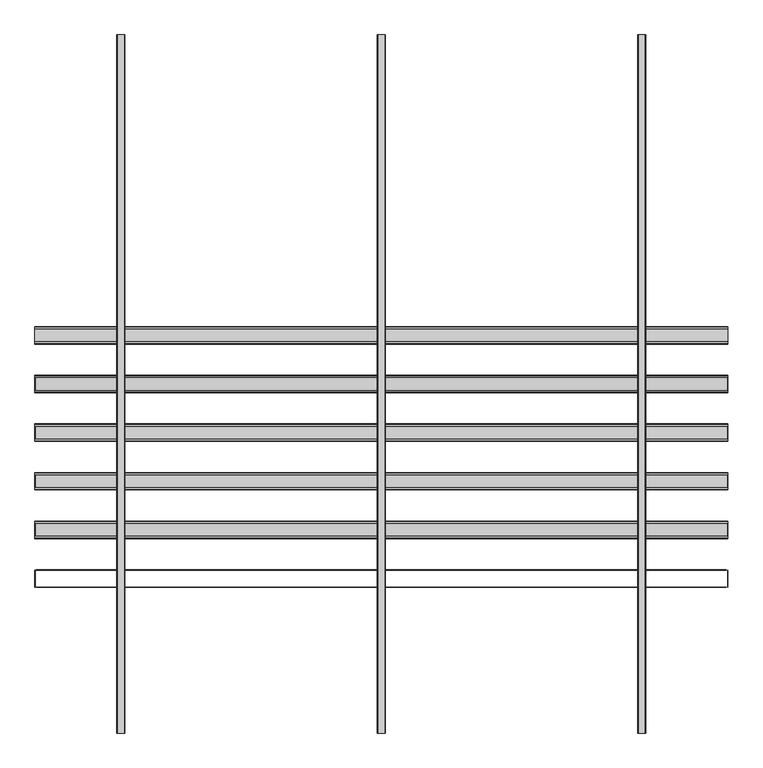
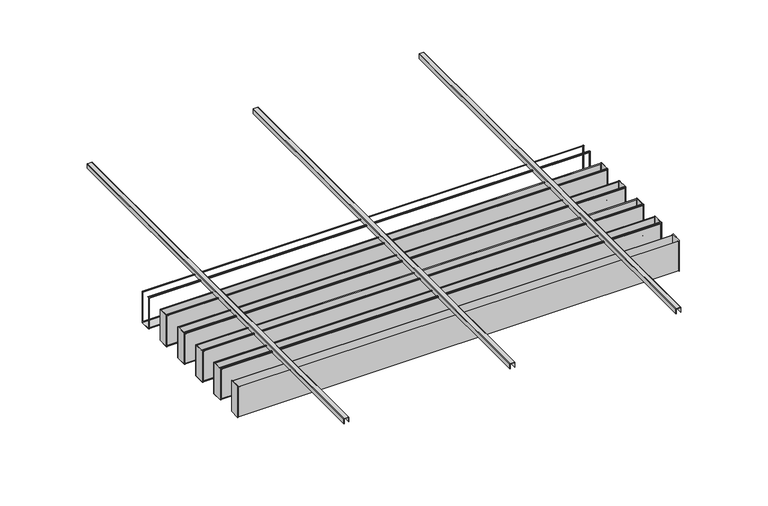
"""IFC4 building model written with IfcOpenShell, lengths in millimetres: proxy geometry, durlum_POLYLAM : durlum_POLYLAM 100."""

from ifc_helpers import new_model, si_unit, point, frame, frame_2d, origin, place, context, project, spatial, polyline, circle_curve, trimmed, segment, composite_curve, outline, extrude, source, transform, mapped, element, save
from ifc_brep_helpers import plane_surface, cylinder_surface, advanced_brep


def generic_models_490a04a7(model_context):
    return source(origin(), model_context, "Body", "SolidModel", [
        advanced_brep(
        [(1995.0, 328.0, 2016.9), (1995.0, 318.0, 2016.9), (1995.0, 318.0, 2015.9), (1995.0, 329.0, 2015.9), (1995.0, 329.0, 1717.9), (1995.0, 231.0, 1717.9), (1995.0, 231.0, 2015.8155735), (1995.0, 242.0, 2015.8155735), (1995.0, 242.0, 2016.9), (1995.0, 232.0, 2016.9), (1995.0, 230.0, 2014.9), (1995.0, 230.0, 1718.9), (1995.0, 232.0, 1716.9), (1995.0, 328.0, 1716.9), (1995.0, 330.0, 1718.9), (1995.0, 330.0, 2014.9), (-1995.0, 328.0, 2016.9), (-1995.0, 330.0, 2014.9), (-1995.0, 330.0, 1718.9), (-1995.0, 328.0, 1716.9), (-1995.0, 232.0, 1716.9), (-1995.0, 230.0, 1718.9), (-1995.0, 230.0, 2014.9), (-1995.0, 232.0, 2016.9), (-1995.0, 242.0, 2016.9), (-1995.0, 242.0, 2015.8155735), (-1995.0, 231.0, 2015.8155735), (-1995.0, 231.0, 1717.9), (-1995.0, 329.0, 1717.9), (-1995.0, 329.0, 2015.9), (-1995.0, 318.0, 2015.9), (-1995.0, 318.0, 2016.9), (-1986.5, 329.0, 2008.4), (1986.5, 329.0, 2008.4), (1986.5, 329.0, 1725.4), (-1986.5, 329.0, 1725.4), (1986.5, 231.0, 2008.4), (-1986.5, 231.0, 2008.4), (-1986.5, 231.0, 1725.4), (1986.5, 231.0, 1725.4), (-1986.5, 230.0, 2008.4), (1986.5, 230.0, 2008.4), (1986.5, 230.0, 1725.4), (-1986.5, 230.0, 1725.4), (1986.5, 330.0, 2008.4), (-1986.5, 330.0, 2008.4), (-1986.5, 330.0, 1725.4), (1986.5, 330.0, 1725.4)],
        [
            (0, 1),
            (1, 2),
            (2, 3),
            (3, 4),
            (4, 5),
            (5, 6),
            (6, 7),
            (7, 8),
            (8, 9),
            (9, 10, circle_curve(frame((1995.0, 232.0, 2014.9), z_axis=(1.0, 0.0, 0.0), x_axis=(0.0, 1.0, 0.0)), 2.0)),
            (10, 11),
            (11, 12, circle_curve(frame((1995.0, 232.0, 1718.9), z_axis=(1.0, 0.0, 0.0), x_axis=(0.0, 1.0, 0.0)), 2.0)),
            (12, 13),
            (13, 14, circle_curve(frame((1995.0, 328.0, 1718.9), z_axis=(1.0, 0.0, 0.0), x_axis=(0.0, 1.0, 0.0)), 2.0)),
            (14, 15),
            (15, 0, circle_curve(frame((1995.0, 328.0, 2014.9), z_axis=(1.0, 0.0, 0.0), x_axis=(0.0, 1.0, 0.0)), 2.0)),
            (16, 17, circle_curve(frame((-1995.0, 328.0, 2014.9), z_axis=(-1.0, 0.0, 0.0), x_axis=(0.0, 1.0, 0.0)), 2.0)),
            (17, 18),
            (18, 19, circle_curve(frame((-1995.0, 328.0, 1718.9), z_axis=(-1.0, 0.0, 0.0), x_axis=(0.0, 1.0, 0.0)), 2.0)),
            (19, 20),
            (20, 21, circle_curve(frame((-1995.0, 232.0, 1718.9), z_axis=(-1.0, 0.0, 0.0), x_axis=(0.0, 1.0, 0.0)), 2.0)),
            (21, 22),
            (22, 23, circle_curve(frame((-1995.0, 232.0, 2014.9), z_axis=(-1.0, 0.0, 0.0), x_axis=(0.0, 1.0, 0.0)), 2.0)),
            (23, 24),
            (24, 25),
            (25, 26),
            (26, 27),
            (27, 28),
            (28, 29),
            (29, 30),
            (30, 31),
            (31, 16),
            (0, 16),
            (31, 1),
            (30, 2),
            (29, 3),
            (28, 4),
            (32, 33),
            (33, 34),
            (34, 35),
            (35, 32),
            (27, 5),
            (26, 6),
            (36, 37),
            (37, 38),
            (38, 39),
            (39, 36),
            (25, 7),
            (24, 8),
            (23, 9),
            (10, 22),
            (21, 11),
            (40, 41),
            (41, 42),
            (42, 43),
            (43, 40),
            (12, 20),
            (19, 13),
            (14, 18),
            (17, 15),
            (44, 45),
            (45, 46),
            (46, 47),
            (47, 44),
            (44, 33),
            (32, 45),
            (36, 41),
            (40, 37),
            (35, 46),
            (43, 38),
            (34, 47),
            (42, 39),
        ],
        [
            plane_surface(frame((1995.0, 318.0, 2016.9), z_axis=(1.0, 0.0, 0.0), x_axis=(0.0, -1.0, 0.0))),
            plane_surface(frame((-1995.0, 318.0, 2016.9), z_axis=(-1.0, 0.0, 0.0), x_axis=(0.0, 1.0, 0.0))),
            plane_surface(frame((1995.0, 328.0, 2016.9), z_axis=(0.0, 0.0, 1.0), x_axis=(-1.0, 0.0, 0.0))),
            plane_surface(frame((1995.0, 318.0, 2016.9), z_axis=(0.0, -1.0, 0.0), x_axis=(-1.0, 0.0, 0.0))),
            plane_surface(frame((1995.0, 318.0, 2015.9), z_axis=(0.0, 0.0, -1.0), x_axis=(-1.0, 0.0, 0.0))),
            plane_surface(frame((1995.0, 329.0, 2015.9), z_axis=(0.0, -1.0, 0.0), x_axis=(-1.0, 0.0, 0.0))),
            plane_surface(frame((1995.0, 329.0, 1717.9), z_axis=(0.0, 0.0, 1.0), x_axis=(-1.0, 0.0, 0.0))),
            plane_surface(frame((1995.0, 231.0, 1717.9), z_axis=(0.0, 1.0, 0.0), x_axis=(-1.0, 0.0, 0.0))),
            plane_surface(frame((1995.0, 231.0, 2015.8155735), z_axis=(0.0, 0.0, -1.0), x_axis=(-1.0, 0.0, 0.0))),
            plane_surface(frame((1995.0, 242.0, 2015.8155735), z_axis=(0.0, 1.0, 0.0), x_axis=(-1.0, 0.0, 0.0))),
            plane_surface(frame((1995.0, 242.0, 2016.9), z_axis=(0.0, 0.0, 1.0), x_axis=(-1.0, 0.0, 0.0))),
            plane_surface(frame((1995.0, 230.0, 2014.9), z_axis=(0.0, -1.0, 0.0), x_axis=(-1.0, 0.0, 0.0))),
            plane_surface(frame((1995.0, 232.0, 1716.9), z_axis=(0.0, 0.0, -1.0), x_axis=(-1.0, 0.0, 0.0))),
            plane_surface(frame((1995.0, 330.0, 1718.9), z_axis=(0.0, 1.0, 0.0), x_axis=(-1.0, 0.0, 0.0))),
            cylinder_surface(frame((-1995.0, 232.0, 2014.9), z_axis=(1.0, 0.0, 0.0), x_axis=(0.0, 1.0, 0.0)), 2.0),
            cylinder_surface(frame((-1995.0, 232.0, 1718.9), z_axis=(1.0, 0.0, 0.0), x_axis=(0.0, 1.0, 0.0)), 2.0),
            cylinder_surface(frame((-1995.0, 328.0, 1718.9), z_axis=(1.0, 0.0, 0.0), x_axis=(0.0, 1.0, 0.0)), 2.0),
            cylinder_surface(frame((-1995.0, 328.0, 2014.9), z_axis=(1.0, 0.0, 0.0), x_axis=(0.0, 1.0, 0.0)), 2.0),
            plane_surface(frame((1986.5, 230.0, 2008.4), z_axis=(0.0, 0.0, -1.0), x_axis=(0.0, 1.0, 0.0))),
            plane_surface(frame((-1986.5, 230.0, 2008.4), z_axis=(1.0, 0.0, 0.0), x_axis=(0.0, 1.0, 0.0))),
            plane_surface(frame((-1986.5, 230.0, 1725.4), z_axis=(0.0, 0.0, 1.0), x_axis=(0.0, 1.0, 0.0))),
            plane_surface(frame((1986.5, 230.0, 1725.4), z_axis=(-1.0, 0.0, 0.0), x_axis=(0.0, 1.0, 0.0))),
        ],
        [
            (0, [[1, 2, 3, 4, 5, 6, 7, 8, 9, 10, 11, 12, 13, 14, 15, 16]]),
            (1, [[17, 18, 19, 20, 21, 22, 23, 24, 25, 26, 27, 28, 29, 30, 31, 32]]),
            (2, [[-1, 33, -32, 34]]),
            (3, [[-2, -34, -31, 35]]),
            (4, [[-3, -35, -30, 36]]),
            (5, [[-4, -36, -29, 37], [38, 39, 40, 41]]),
            (6, [[-5, -37, -28, 42]]),
            (7, [[-6, -42, -27, 43], [44, 45, 46, 47]]),
            (8, [[-7, -43, -26, 48]]),
            (9, [[-8, -48, -25, 49]]),
            (10, [[-9, -49, -24, 50]]),
            (11, [[-11, 51, -22, 52], [53, 54, 55, 56]]),
            (12, [[-13, 57, -20, 58]]),
            (13, [[-15, 59, -18, 60], [61, 62, 63, 64]]),
            (14, [[-10, -50, -23, -51]]),
            (15, [[-12, -52, -21, -57]]),
            (16, [[-14, -58, -19, -59]]),
            (17, [[-16, -60, -17, -33]]),
            (18, [[65, -38, 66, -61]]),
            (18, [[67, -53, 68, -44]]),
            (19, [[-66, -41, 69, -62]]),
            (19, [[-68, -56, 70, -45]]),
            (20, [[-69, -40, 71, -63]]),
            (20, [[-70, -55, 72, -46]]),
            (21, [[-65, -64, -71, -39]]),
            (21, [[-67, -47, -72, -54]]),
        ],
    ),
        extrude(outline(composite_curve([segment(polyline([(2005.0, 22.5), (2047.0, 22.5)]), True, "CONTINUOUS"), segment(trimmed(circle_curve(frame_2d((2047.0, 19.5)), 3.0), [point((2047.0, 22.5))], [point((2050.0, 19.5))], False, "CARTESIAN"), True, "CONTINUOUS"), segment(polyline([(2050.0, 19.5), (2050.0, -19.5)]), True, "CONTINUOUS"), segment(trimmed(circle_curve(frame_2d((2047.0, -19.5)), 3.0), [point((2050.0, -19.5))], [point((2047.0, -22.5))], False, "CARTESIAN"), True, "CONTINUOUS"), segment(polyline([(2047.0, -22.5), (2005.0, -22.5), (2005.0, -21.0), (2047.0, -21.0)]), True, "CONTINUOUS"), segment(trimmed(circle_curve(frame_2d((2047.0, -19.5)), 1.5), [point((2047.0, -21.0))], [point((2048.5, -19.5))], True, "CARTESIAN"), True, "CONTINUOUS"), segment(polyline([(2048.5, -19.5), (2048.5, 19.5)]), True, "CONTINUOUS"), segment(trimmed(circle_curve(frame_2d((2047.0, 19.5)), 1.5), [point((2048.5, 19.5))], [point((2047.0, 21.0))], True, "CARTESIAN"), True, "CONTINUOUS"), segment(polyline([(2047.0, 21.0), (2005.0, 21.0), (2005.0, 22.5)]), True, "CONTINUOUS")], self_intersect=False)), frame((0.0, -2010.0, 0.0), z_axis=(0.0, 1.0, 0.0), x_axis=(0.0, 0.0, 1.0)), (0.0, 0.0, 1.0), 4020.0),
        extrude(outline(composite_curve([segment(polyline([(2005.0, -1477.5), (2047.0, -1477.5)]), True, "CONTINUOUS"), segment(trimmed(circle_curve(frame_2d((2047.0, -1480.5)), 3.0), [point((2047.0, -1477.5))], [point((2050.0, -1480.5))], False, "CARTESIAN"), True, "CONTINUOUS"), segment(polyline([(2050.0, -1480.5), (2050.0, -1519.5)]), True, "CONTINUOUS"), segment(trimmed(circle_curve(frame_2d((2047.0, -1519.5)), 3.0), [point((2050.0, -1519.5))], [point((2047.0, -1522.5))], False, "CARTESIAN"), True, "CONTINUOUS"), segment(polyline([(2047.0, -1522.5), (2005.0, -1522.5), (2005.0, -1521.0), (2047.0, -1521.0)]), True, "CONTINUOUS"), segment(trimmed(circle_curve(frame_2d((2047.0, -1519.5)), 1.5), [point((2047.0, -1521.0))], [point((2048.5, -1519.5))], True, "CARTESIAN"), True, "CONTINUOUS"), segment(polyline([(2048.5, -1519.5), (2048.5, -1480.5)]), True, "CONTINUOUS"), segment(trimmed(circle_curve(frame_2d((2047.0, -1480.5)), 1.5), [point((2048.5, -1480.5))], [point((2047.0, -1479.0))], True, "CARTESIAN"), True, "CONTINUOUS"), segment(polyline([(2047.0, -1479.0), (2005.0, -1479.0), (2005.0, -1477.5)]), True, "CONTINUOUS")], self_intersect=False)), frame((0.0, -2010.0, 0.0), z_axis=(0.0, 1.0, 0.0), x_axis=(0.0, 0.0, 1.0)), (0.0, 0.0, 1.0), 4020.0),
        extrude(outline(composite_curve([segment(polyline([(2005.0, 1522.5), (2047.0, 1522.5)]), True, "CONTINUOUS"), segment(trimmed(circle_curve(frame_2d((2047.0, 1519.5)), 3.0), [point((2047.0, 1522.5))], [point((2050.0, 1519.5))], False, "CARTESIAN"), True, "CONTINUOUS"), segment(polyline([(2050.0, 1519.5), (2050.0, 1480.5)]), True, "CONTINUOUS"), segment(trimmed(circle_curve(frame_2d((2047.0, 1480.5)), 3.0), [point((2050.0, 1480.5))], [point((2047.0, 1477.5))], False, "CARTESIAN"), True, "CONTINUOUS"), segment(polyline([(2047.0, 1477.5), (2005.0, 1477.5), (2005.0, 1479.0), (2047.0, 1479.0)]), True, "CONTINUOUS"), segment(trimmed(circle_curve(frame_2d((2047.0, 1480.5)), 1.5), [point((2047.0, 1479.0))], [point((2048.5, 1480.5))], True, "CARTESIAN"), True, "CONTINUOUS"), segment(polyline([(2048.5, 1480.5), (2048.5, 1519.5)]), True, "CONTINUOUS"), segment(trimmed(circle_curve(frame_2d((2047.0, 1519.5)), 1.5), [point((2048.5, 1519.5))], [point((2047.0, 1521.0))], True, "CARTESIAN"), True, "CONTINUOUS"), segment(polyline([(2047.0, 1521.0), (2005.0, 1521.0), (2005.0, 1522.5)]), True, "CONTINUOUS")], self_intersect=False)), frame((0.0, -2010.0, 0.0), z_axis=(0.0, 1.0, 0.0), x_axis=(0.0, 0.0, 1.0)), (0.0, 0.0, 1.0), 4020.0),
        extrude(outline(polyline([(1986.5, 49.0), (-1986.5, 49.0), (-1986.5, 50.0), (1986.5, 50.0), (1986.5, 49.0)])), frame((0.0, 0.0, 1725.4), z_axis=(0.0, 0.0, 1.0), x_axis=(1.0, 0.0, 0.0)), (0.0, 0.0, 1.0), 283.0),
        extrude(outline(polyline([(1986.5, -50.0), (-1986.5, -50.0), (-1986.5, -49.0), (1986.5, -49.0), (1986.5, -50.0)])), frame((0.0, 0.0, 1725.4), z_axis=(0.0, 0.0, 1.0), x_axis=(1.0, 0.0, 0.0)), (0.0, 0.0, 1.0), 283.0),
        extrude(outline(polyline([(1993.0, 49.0), (1995.0, 49.0), (1995.0, -49.0), (1993.0, -49.0), (1993.0, 49.0)])), frame((0.0, 0.0, 1717.9), z_axis=(0.0, 0.0, 1.0), x_axis=(1.0, 0.0, 0.0)), (0.0, 0.0, 1.0), 298.0),
        extrude(outline(polyline([(-1995.0, 49.0), (-1993.0, 49.0), (-1993.0, -49.0), (-1995.0, -49.0), (-1995.0, 49.0)])), frame((0.0, 0.0, 1717.9), z_axis=(0.0, 0.0, 1.0), x_axis=(1.0, 0.0, 0.0)), (0.0, 0.0, 1.0), 298.0),
        advanced_brep(
        [(1995.0, 48.0, 2016.9), (1995.0, 38.0, 2016.9), (1995.0, 38.0, 2015.9), (1995.0, 49.0, 2015.9), (1995.0, 49.0, 1717.9), (1995.0, -49.0, 1717.9), (1995.0, -49.0, 2015.8155735), (1995.0, -38.0, 2015.8155735), (1995.0, -38.0, 2016.9), (1995.0, -48.0, 2016.9), (1995.0, -50.0, 2014.9), (1995.0, -50.0, 1718.9), (1995.0, -48.0, 1716.9), (1995.0, 48.0, 1716.9), (1995.0, 50.0, 1718.9), (1995.0, 50.0, 2014.9), (-1995.0, 48.0, 2016.9), (-1995.0, 50.0, 2014.9), (-1995.0, 50.0, 1718.9), (-1995.0, 48.0, 1716.9), (-1995.0, -48.0, 1716.9), (-1995.0, -50.0, 1718.9), (-1995.0, -50.0, 2014.9), (-1995.0, -48.0, 2016.9), (-1995.0, -38.0, 2016.9), (-1995.0, -38.0, 2015.8155735), (-1995.0, -49.0, 2015.8155735), (-1995.0, -49.0, 1717.9), (-1995.0, 49.0, 1717.9), (-1995.0, 49.0, 2015.9), (-1995.0, 38.0, 2015.9), (-1995.0, 38.0, 2016.9), (-1986.5, 49.0, 2008.4), (1986.5, 49.0, 2008.4), (1986.5, 49.0, 1725.4), (-1986.5, 49.0, 1725.4), (1986.5, -49.0, 2008.4), (-1986.5, -49.0, 2008.4), (-1986.5, -49.0, 1725.4), (1986.5, -49.0, 1725.4), (-1986.5, -50.0, 2008.4), (1986.5, -50.0, 2008.4), (1986.5, -50.0, 1725.4), (-1986.5, -50.0, 1725.4), (1986.5, 50.0, 2008.4), (-1986.5, 50.0, 2008.4), (-1986.5, 50.0, 1725.4), (1986.5, 50.0, 1725.4)],
        [
            (0, 1),
            (1, 2),
            (2, 3),
            (3, 4),
            (4, 5),
            (5, 6),
            (6, 7),
            (7, 8),
            (8, 9),
            (9, 10, circle_curve(frame((1995.0, -48.0, 2014.9), z_axis=(1.0, 0.0, 0.0), x_axis=(0.0, 1.0, 0.0)), 2.0)),
            (10, 11),
            (11, 12, circle_curve(frame((1995.0, -48.0, 1718.9), z_axis=(1.0, 0.0, 0.0), x_axis=(0.0, 1.0, 0.0)), 2.0)),
            (12, 13),
            (13, 14, circle_curve(frame((1995.0, 48.0, 1718.9), z_axis=(1.0, 0.0, 0.0), x_axis=(0.0, 1.0, 0.0)), 2.0)),
            (14, 15),
            (15, 0, circle_curve(frame((1995.0, 48.0, 2014.9), z_axis=(1.0, 0.0, 0.0), x_axis=(0.0, 1.0, 0.0)), 2.0)),
            (16, 17, circle_curve(frame((-1995.0, 48.0, 2014.9), z_axis=(-1.0, 0.0, 0.0), x_axis=(0.0, 1.0, 0.0)), 2.0)),
            (17, 18),
            (18, 19, circle_curve(frame((-1995.0, 48.0, 1718.9), z_axis=(-1.0, 0.0, 0.0), x_axis=(0.0, 1.0, 0.0)), 2.0)),
            (19, 20),
            (20, 21, circle_curve(frame((-1995.0, -48.0, 1718.9), z_axis=(-1.0, 0.0, 0.0), x_axis=(0.0, 1.0, 0.0)), 2.0)),
            (21, 22),
            (22, 23, circle_curve(frame((-1995.0, -48.0, 2014.9), z_axis=(-1.0, 0.0, 0.0), x_axis=(0.0, 1.0, 0.0)), 2.0)),
            (23, 24),
            (24, 25),
            (25, 26),
            (26, 27),
            (27, 28),
            (28, 29),
            (29, 30),
            (30, 31),
            (31, 16),
            (0, 16),
            (31, 1),
            (30, 2),
            (29, 3),
            (28, 4),
            (32, 33),
            (33, 34),
            (34, 35),
            (35, 32),
            (27, 5),
            (26, 6),
            (36, 37),
            (37, 38),
            (38, 39),
            (39, 36),
            (25, 7),
            (24, 8),
            (23, 9),
            (10, 22),
            (21, 11),
            (40, 41),
            (41, 42),
            (42, 43),
            (43, 40),
            (12, 20),
            (19, 13),
            (14, 18),
            (17, 15),
            (44, 45),
            (45, 46),
            (46, 47),
            (47, 44),
            (44, 33),
            (32, 45),
            (36, 41),
            (40, 37),
            (35, 46),
            (43, 38),
            (34, 47),
            (42, 39),
        ],
        [
            plane_surface(frame((1995.0, 38.0, 2016.9), z_axis=(1.0, 0.0, 0.0), x_axis=(0.0, -1.0, 0.0))),
            plane_surface(frame((-1995.0, 38.0, 2016.9), z_axis=(-1.0, 0.0, 0.0), x_axis=(0.0, 1.0, 0.0))),
            plane_surface(frame((1995.0, 48.0, 2016.9), z_axis=(0.0, 0.0, 1.0), x_axis=(-1.0, 0.0, 0.0))),
            plane_surface(frame((1995.0, 38.0, 2016.9), z_axis=(0.0, -1.0, 0.0), x_axis=(-1.0, 0.0, 0.0))),
            plane_surface(frame((1995.0, 38.0, 2015.9), z_axis=(0.0, 0.0, -1.0), x_axis=(-1.0, 0.0, 0.0))),
            plane_surface(frame((1995.0, 49.0, 2015.9), z_axis=(0.0, -1.0, 0.0), x_axis=(-1.0, 0.0, 0.0))),
            plane_surface(frame((1995.0, 49.0, 1717.9), z_axis=(0.0, 0.0, 1.0), x_axis=(-1.0, 0.0, 0.0))),
            plane_surface(frame((1995.0, -49.0, 1717.9), z_axis=(0.0, 1.0, 0.0), x_axis=(-1.0, 0.0, 0.0))),
            plane_surface(frame((1995.0, -49.0, 2015.8155735), z_axis=(0.0, 0.0, -1.0), x_axis=(-1.0, 0.0, 0.0))),
            plane_surface(frame((1995.0, -38.0, 2015.8155735), z_axis=(0.0, 1.0, 0.0), x_axis=(-1.0, 0.0, 0.0))),
            plane_surface(frame((1995.0, -38.0, 2016.9), z_axis=(0.0, 0.0, 1.0), x_axis=(-1.0, 0.0, 0.0))),
            plane_surface(frame((1995.0, -50.0, 2014.9), z_axis=(0.0, -1.0, 0.0), x_axis=(-1.0, 0.0, 0.0))),
            plane_surface(frame((1995.0, -48.0, 1716.9), z_axis=(0.0, 0.0, -1.0), x_axis=(-1.0, 0.0, 0.0))),
            plane_surface(frame((1995.0, 50.0, 1718.9), z_axis=(0.0, 1.0, 0.0), x_axis=(-1.0, 0.0, 0.0))),
            cylinder_surface(frame((-1995.0, -48.0, 2014.9), z_axis=(1.0, 0.0, 0.0), x_axis=(0.0, 1.0, 0.0)), 2.0),
            cylinder_surface(frame((-1995.0, -48.0, 1718.9), z_axis=(1.0, 0.0, 0.0), x_axis=(0.0, 1.0, 0.0)), 2.0),
            cylinder_surface(frame((-1995.0, 48.0, 1718.9), z_axis=(1.0, 0.0, 0.0), x_axis=(0.0, 1.0, 0.0)), 2.0),
            cylinder_surface(frame((-1995.0, 48.0, 2014.9), z_axis=(1.0, 0.0, 0.0), x_axis=(0.0, 1.0, 0.0)), 2.0),
            plane_surface(frame((1986.5, -50.0, 2008.4), z_axis=(0.0, 0.0, -1.0), x_axis=(0.0, 1.0, 0.0))),
            plane_surface(frame((-1986.5, -50.0, 2008.4), z_axis=(1.0, 0.0, 0.0), x_axis=(0.0, 1.0, 0.0))),
            plane_surface(frame((-1986.5, -50.0, 1725.4), z_axis=(0.0, 0.0, 1.0), x_axis=(0.0, 1.0, 0.0))),
            plane_surface(frame((1986.5, -50.0, 1725.4), z_axis=(-1.0, 0.0, 0.0), x_axis=(0.0, 1.0, 0.0))),
        ],
        [
            (0, [[1, 2, 3, 4, 5, 6, 7, 8, 9, 10, 11, 12, 13, 14, 15, 16]]),
            (1, [[17, 18, 19, 20, 21, 22, 23, 24, 25, 26, 27, 28, 29, 30, 31, 32]]),
            (2, [[-1, 33, -32, 34]]),
            (3, [[-2, -34, -31, 35]]),
            (4, [[-3, -35, -30, 36]]),
            (5, [[-4, -36, -29, 37], [38, 39, 40, 41]]),
            (6, [[-5, -37, -28, 42]]),
            (7, [[-6, -42, -27, 43], [44, 45, 46, 47]]),
            (8, [[-7, -43, -26, 48]]),
            (9, [[-8, -48, -25, 49]]),
            (10, [[-9, -49, -24, 50]]),
            (11, [[-11, 51, -22, 52], [53, 54, 55, 56]]),
            (12, [[-13, 57, -20, 58]]),
            (13, [[-15, 59, -18, 60], [61, 62, 63, 64]]),
            (14, [[-10, -50, -23, -51]]),
            (15, [[-12, -52, -21, -57]]),
            (16, [[-14, -58, -19, -59]]),
            (17, [[-16, -60, -17, -33]]),
            (18, [[65, -38, 66, -61]]),
            (18, [[67, -53, 68, -44]]),
            (19, [[-66, -41, 69, -62]]),
            (19, [[-68, -56, 70, -45]]),
            (20, [[-69, -40, 71, -63]]),
            (20, [[-70, -55, 72, -46]]),
            (21, [[-65, -64, -71, -39]]),
            (21, [[-67, -47, -72, -54]]),
        ],
    ),
        extrude(outline(polyline([(1986.5, -231.0), (-1986.5, -231.0), (-1986.5, -230.0), (1986.5, -230.0), (1986.5, -231.0)])), frame((0.0, 0.0, 1725.4), z_axis=(0.0, 0.0, 1.0), x_axis=(1.0, 0.0, 0.0)), (0.0, 0.0, 1.0), 283.0),
        extrude(outline(polyline([(1986.5, -330.0), (-1986.5, -330.0), (-1986.5, -329.0), (1986.5, -329.0), (1986.5, -330.0)])), frame((0.0, 0.0, 1725.4), z_axis=(0.0, 0.0, 1.0), x_axis=(1.0, 0.0, 0.0)), (0.0, 0.0, 1.0), 283.0),
        extrude(outline(polyline([(1993.0, -231.0), (1995.0, -231.0), (1995.0, -329.0), (1993.0, -329.0), (1993.0, -231.0)])), frame((0.0, 0.0, 1717.9), z_axis=(0.0, 0.0, 1.0), x_axis=(1.0, 0.0, 0.0)), (0.0, 0.0, 1.0), 298.0),
        extrude(outline(polyline([(-1995.0, -231.0), (-1993.0, -231.0), (-1993.0, -329.0), (-1995.0, -329.0), (-1995.0, -231.0)])), frame((0.0, 0.0, 1717.9), z_axis=(0.0, 0.0, 1.0), x_axis=(1.0, 0.0, 0.0)), (0.0, 0.0, 1.0), 298.0),
        advanced_brep(
        [(1995.0, -232.0, 2016.9), (1995.0, -242.0, 2016.9), (1995.0, -242.0, 2015.9), (1995.0, -231.0, 2015.9), (1995.0, -231.0, 1717.9), (1995.0, -329.0, 1717.9), (1995.0, -329.0, 2015.8155735), (1995.0, -318.0, 2015.8155735), (1995.0, -318.0, 2016.9), (1995.0, -328.0, 2016.9), (1995.0, -330.0, 2014.9), (1995.0, -330.0, 1718.9), (1995.0, -328.0, 1716.9), (1995.0, -232.0, 1716.9), (1995.0, -230.0, 1718.9), (1995.0, -230.0, 2014.9), (-1995.0, -232.0, 2016.9), (-1995.0, -230.0, 2014.9), (-1995.0, -230.0, 1718.9), (-1995.0, -232.0, 1716.9), (-1995.0, -328.0, 1716.9), (-1995.0, -330.0, 1718.9), (-1995.0, -330.0, 2014.9), (-1995.0, -328.0, 2016.9), (-1995.0, -318.0, 2016.9), (-1995.0, -318.0, 2015.8155735), (-1995.0, -329.0, 2015.8155735), (-1995.0, -329.0, 1717.9), (-1995.0, -231.0, 1717.9), (-1995.0, -231.0, 2015.9), (-1995.0, -242.0, 2015.9), (-1995.0, -242.0, 2016.9), (-1986.5, -231.0, 2008.4), (1986.5, -231.0, 2008.4), (1986.5, -231.0, 1725.4), (-1986.5, -231.0, 1725.4), (1986.5, -329.0, 2008.4), (-1986.5, -329.0, 2008.4), (-1986.5, -329.0, 1725.4), (1986.5, -329.0, 1725.4), (-1986.5, -330.0, 2008.4), (1986.5, -330.0, 2008.4), (1986.5, -330.0, 1725.4), (-1986.5, -330.0, 1725.4), (1986.5, -230.0, 2008.4), (-1986.5, -230.0, 2008.4), (-1986.5, -230.0, 1725.4), (1986.5, -230.0, 1725.4)],
        [
            (0, 1),
            (1, 2),
            (2, 3),
            (3, 4),
            (4, 5),
            (5, 6),
            (6, 7),
            (7, 8),
            (8, 9),
            (9, 10, circle_curve(frame((1995.0, -328.0, 2014.9), z_axis=(1.0, 0.0, 0.0), x_axis=(0.0, 1.0, 0.0)), 2.0)),
            (10, 11),
            (11, 12, circle_curve(frame((1995.0, -328.0, 1718.9), z_axis=(1.0, 0.0, 0.0), x_axis=(0.0, 1.0, 0.0)), 2.0)),
            (12, 13),
            (13, 14, circle_curve(frame((1995.0, -232.0, 1718.9), z_axis=(1.0, 0.0, 0.0), x_axis=(0.0, 1.0, 0.0)), 2.0)),
            (14, 15),
            (15, 0, circle_curve(frame((1995.0, -232.0, 2014.9), z_axis=(1.0, 0.0, 0.0), x_axis=(0.0, 1.0, 0.0)), 2.0)),
            (16, 17, circle_curve(frame((-1995.0, -232.0, 2014.9), z_axis=(-1.0, 0.0, 0.0), x_axis=(0.0, 1.0, 0.0)), 2.0)),
            (17, 18),
            (18, 19, circle_curve(frame((-1995.0, -232.0, 1718.9), z_axis=(-1.0, 0.0, 0.0), x_axis=(0.0, 1.0, 0.0)), 2.0)),
            (19, 20),
            (20, 21, circle_curve(frame((-1995.0, -328.0, 1718.9), z_axis=(-1.0, 0.0, 0.0), x_axis=(0.0, 1.0, 0.0)), 2.0)),
            (21, 22),
            (22, 23, circle_curve(frame((-1995.0, -328.0, 2014.9), z_axis=(-1.0, 0.0, 0.0), x_axis=(0.0, 1.0, 0.0)), 2.0)),
            (23, 24),
            (24, 25),
            (25, 26),
            (26, 27),
            (27, 28),
            (28, 29),
            (29, 30),
            (30, 31),
            (31, 16),
            (0, 16),
            (31, 1),
            (30, 2),
            (29, 3),
            (28, 4),
            (32, 33),
            (33, 34),
            (34, 35),
            (35, 32),
            (27, 5),
            (26, 6),
            (36, 37),
            (37, 38),
            (38, 39),
            (39, 36),
            (25, 7),
            (24, 8),
            (23, 9),
            (10, 22),
            (21, 11),
            (40, 41),
            (41, 42),
            (42, 43),
            (43, 40),
            (12, 20),
            (19, 13),
            (14, 18),
            (17, 15),
            (44, 45),
            (45, 46),
            (46, 47),
            (47, 44),
            (44, 33),
            (32, 45),
            (36, 41),
            (40, 37),
            (35, 46),
            (43, 38),
            (34, 47),
            (42, 39),
        ],
        [
            plane_surface(frame((1995.0, -242.0, 2016.9), z_axis=(1.0, 0.0, 0.0), x_axis=(0.0, -1.0, 0.0))),
            plane_surface(frame((-1995.0, -242.0, 2016.9), z_axis=(-1.0, 0.0, 0.0), x_axis=(0.0, 1.0, 0.0))),
            plane_surface(frame((1995.0, -232.0, 2016.9), z_axis=(0.0, 0.0, 1.0), x_axis=(-1.0, 0.0, 0.0))),
            plane_surface(frame((1995.0, -242.0, 2016.9), z_axis=(0.0, -1.0, 0.0), x_axis=(-1.0, 0.0, 0.0))),
            plane_surface(frame((1995.0, -242.0, 2015.9), z_axis=(0.0, 0.0, -1.0), x_axis=(-1.0, 0.0, 0.0))),
            plane_surface(frame((1995.0, -231.0, 2015.9), z_axis=(0.0, -1.0, 0.0), x_axis=(-1.0, 0.0, 0.0))),
            plane_surface(frame((1995.0, -231.0, 1717.9), z_axis=(0.0, 0.0, 1.0), x_axis=(-1.0, 0.0, 0.0))),
            plane_surface(frame((1995.0, -329.0, 1717.9), z_axis=(0.0, 1.0, 0.0), x_axis=(-1.0, 0.0, 0.0))),
            plane_surface(frame((1995.0, -329.0, 2015.8155735), z_axis=(0.0, 0.0, -1.0), x_axis=(-1.0, 0.0, 0.0))),
            plane_surface(frame((1995.0, -318.0, 2015.8155735), z_axis=(0.0, 1.0, 0.0), x_axis=(-1.0, 0.0, 0.0))),
            plane_surface(frame((1995.0, -318.0, 2016.9), z_axis=(0.0, 0.0, 1.0), x_axis=(-1.0, 0.0, 0.0))),
            plane_surface(frame((1995.0, -330.0, 2014.9), z_axis=(0.0, -1.0, 0.0), x_axis=(-1.0, 0.0, 0.0))),
            plane_surface(frame((1995.0, -328.0, 1716.9), z_axis=(0.0, 0.0, -1.0), x_axis=(-1.0, 0.0, 0.0))),
            plane_surface(frame((1995.0, -230.0, 1718.9), z_axis=(0.0, 1.0, 0.0), x_axis=(-1.0, 0.0, 0.0))),
            cylinder_surface(frame((-1995.0, -328.0, 2014.9), z_axis=(1.0, 0.0, 0.0), x_axis=(0.0, 1.0, 0.0)), 2.0),
            cylinder_surface(frame((-1995.0, -328.0, 1718.9), z_axis=(1.0, 0.0, 0.0), x_axis=(0.0, 1.0, 0.0)), 2.0),
            cylinder_surface(frame((-1995.0, -232.0, 1718.9), z_axis=(1.0, 0.0, 0.0), x_axis=(0.0, 1.0, 0.0)), 2.0),
            cylinder_surface(frame((-1995.0, -232.0, 2014.9), z_axis=(1.0, 0.0, 0.0), x_axis=(0.0, 1.0, 0.0)), 2.0),
            plane_surface(frame((1986.5, -330.0, 2008.4), z_axis=(0.0, 0.0, -1.0), x_axis=(0.0, 1.0, 0.0))),
            plane_surface(frame((-1986.5, -330.0, 2008.4), z_axis=(1.0, 0.0, 0.0), x_axis=(0.0, 1.0, 0.0))),
            plane_surface(frame((-1986.5, -330.0, 1725.4), z_axis=(0.0, 0.0, 1.0), x_axis=(0.0, 1.0, 0.0))),
            plane_surface(frame((1986.5, -330.0, 1725.4), z_axis=(-1.0, 0.0, 0.0), x_axis=(0.0, 1.0, 0.0))),
        ],
        [
            (0, [[1, 2, 3, 4, 5, 6, 7, 8, 9, 10, 11, 12, 13, 14, 15, 16]]),
            (1, [[17, 18, 19, 20, 21, 22, 23, 24, 25, 26, 27, 28, 29, 30, 31, 32]]),
            (2, [[-1, 33, -32, 34]]),
            (3, [[-2, -34, -31, 35]]),
            (4, [[-3, -35, -30, 36]]),
            (5, [[-4, -36, -29, 37], [38, 39, 40, 41]]),
            (6, [[-5, -37, -28, 42]]),
            (7, [[-6, -42, -27, 43], [44, 45, 46, 47]]),
            (8, [[-7, -43, -26, 48]]),
            (9, [[-8, -48, -25, 49]]),
            (10, [[-9, -49, -24, 50]]),
            (11, [[-11, 51, -22, 52], [53, 54, 55, 56]]),
            (12, [[-13, 57, -20, 58]]),
            (13, [[-15, 59, -18, 60], [61, 62, 63, 64]]),
            (14, [[-10, -50, -23, -51]]),
            (15, [[-12, -52, -21, -57]]),
            (16, [[-14, -58, -19, -59]]),
            (17, [[-16, -60, -17, -33]]),
            (18, [[65, -38, 66, -61]]),
            (18, [[67, -53, 68, -44]]),
            (19, [[-66, -41, 69, -62]]),
            (19, [[-68, -56, 70, -45]]),
            (20, [[-69, -40, 71, -63]]),
            (20, [[-70, -55, 72, -46]]),
            (21, [[-65, -64, -71, -39]]),
            (21, [[-67, -47, -72, -54]]),
        ],
    ),
        extrude(outline(polyline([(1986.5, -511.0), (-1986.5, -511.0), (-1986.5, -510.0), (1986.5, -510.0), (1986.5, -511.0)])), frame((0.0, 0.0, 1725.4), z_axis=(0.0, 0.0, 1.0), x_axis=(1.0, 0.0, 0.0)), (0.0, 0.0, 1.0), 283.0),
        extrude(outline(polyline([(1986.5, -610.0), (-1986.5, -610.0), (-1986.5, -609.0), (1986.5, -609.0), (1986.5, -610.0)])), frame((0.0, 0.0, 1725.4), z_axis=(0.0, 0.0, 1.0), x_axis=(1.0, 0.0, 0.0)), (0.0, 0.0, 1.0), 283.0),
        extrude(outline(polyline([(1993.0, -511.0), (1995.0, -511.0), (1995.0, -609.0), (1993.0, -609.0), (1993.0, -511.0)])), frame((0.0, 0.0, 1717.9), z_axis=(0.0, 0.0, 1.0), x_axis=(1.0, 0.0, 0.0)), (0.0, 0.0, 1.0), 298.0),
        extrude(outline(polyline([(-1995.0, -511.0), (-1993.0, -511.0), (-1993.0, -609.0), (-1995.0, -609.0), (-1995.0, -511.0)])), frame((0.0, 0.0, 1717.9), z_axis=(0.0, 0.0, 1.0), x_axis=(1.0, 0.0, 0.0)), (0.0, 0.0, 1.0), 298.0),
        advanced_brep(
        [(1995.0, -512.0, 2016.9), (1995.0, -522.0, 2016.9), (1995.0, -522.0, 2015.9), (1995.0, -511.0, 2015.9), (1995.0, -511.0, 1717.9), (1995.0, -609.0, 1717.9), (1995.0, -609.0, 2015.8155735), (1995.0, -598.0, 2015.8155735), (1995.0, -598.0, 2016.9), (1995.0, -608.0, 2016.9), (1995.0, -610.0, 2014.9), (1995.0, -610.0, 1718.9), (1995.0, -608.0, 1716.9), (1995.0, -512.0, 1716.9), (1995.0, -510.0, 1718.9), (1995.0, -510.0, 2014.9), (-1995.0, -512.0, 2016.9), (-1995.0, -510.0, 2014.9), (-1995.0, -510.0, 1718.9), (-1995.0, -512.0, 1716.9), (-1995.0, -608.0, 1716.9), (-1995.0, -610.0, 1718.9), (-1995.0, -610.0, 2014.9), (-1995.0, -608.0, 2016.9), (-1995.0, -598.0, 2016.9), (-1995.0, -598.0, 2015.8155735), (-1995.0, -609.0, 2015.8155735), (-1995.0, -609.0, 1717.9), (-1995.0, -511.0, 1717.9), (-1995.0, -511.0, 2015.9), (-1995.0, -522.0, 2015.9), (-1995.0, -522.0, 2016.9), (-1986.5, -511.0, 2008.4), (1986.5, -511.0, 2008.4), (1986.5, -511.0, 1725.4), (-1986.5, -511.0, 1725.4), (1986.5, -609.0, 2008.4), (-1986.5, -609.0, 2008.4), (-1986.5, -609.0, 1725.4), (1986.5, -609.0, 1725.4), (-1986.5, -610.0, 2008.4), (1986.5, -610.0, 2008.4), (1986.5, -610.0, 1725.4), (-1986.5, -610.0, 1725.4), (1986.5, -510.0, 2008.4), (-1986.5, -510.0, 2008.4), (-1986.5, -510.0, 1725.4), (1986.5, -510.0, 1725.4)],
        [
            (0, 1),
            (1, 2),
            (2, 3),
            (3, 4),
            (4, 5),
            (5, 6),
            (6, 7),
            (7, 8),
            (8, 9),
            (9, 10, circle_curve(frame((1995.0, -608.0, 2014.9), z_axis=(1.0, 0.0, 0.0), x_axis=(0.0, 1.0, 0.0)), 2.0)),
            (10, 11),
            (11, 12, circle_curve(frame((1995.0, -608.0, 1718.9), z_axis=(1.0, 0.0, 0.0), x_axis=(0.0, 1.0, 0.0)), 2.0)),
            (12, 13),
            (13, 14, circle_curve(frame((1995.0, -512.0, 1718.9), z_axis=(1.0, 0.0, 0.0), x_axis=(0.0, 1.0, 0.0)), 2.0)),
            (14, 15),
            (15, 0, circle_curve(frame((1995.0, -512.0, 2014.9), z_axis=(1.0, 0.0, 0.0), x_axis=(0.0, 1.0, 0.0)), 2.0)),
            (16, 17, circle_curve(frame((-1995.0, -512.0, 2014.9), z_axis=(-1.0, 0.0, 0.0), x_axis=(0.0, 1.0, 0.0)), 2.0)),
            (17, 18),
            (18, 19, circle_curve(frame((-1995.0, -512.0, 1718.9), z_axis=(-1.0, 0.0, 0.0), x_axis=(0.0, 1.0, 0.0)), 2.0)),
            (19, 20),
            (20, 21, circle_curve(frame((-1995.0, -608.0, 1718.9), z_axis=(-1.0, 0.0, 0.0), x_axis=(0.0, 1.0, 0.0)), 2.0)),
            (21, 22),
            (22, 23, circle_curve(frame((-1995.0, -608.0, 2014.9), z_axis=(-1.0, 0.0, 0.0), x_axis=(0.0, 1.0, 0.0)), 2.0)),
            (23, 24),
            (24, 25),
            (25, 26),
            (26, 27),
            (27, 28),
            (28, 29),
            (29, 30),
            (30, 31),
            (31, 16),
            (0, 16),
            (31, 1),
            (30, 2),
            (29, 3),
            (28, 4),
            (32, 33),
            (33, 34),
            (34, 35),
            (35, 32),
            (27, 5),
            (26, 6),
            (36, 37),
            (37, 38),
            (38, 39),
            (39, 36),
            (25, 7),
            (24, 8),
            (23, 9),
            (10, 22),
            (21, 11),
            (40, 41),
            (41, 42),
            (42, 43),
            (43, 40),
            (12, 20),
            (19, 13),
            (14, 18),
            (17, 15),
            (44, 45),
            (45, 46),
            (46, 47),
            (47, 44),
            (44, 33),
            (32, 45),
            (36, 41),
            (40, 37),
            (35, 46),
            (43, 38),
            (34, 47),
            (42, 39),
        ],
        [
            plane_surface(frame((1995.0, -522.0, 2016.9), z_axis=(1.0, 0.0, 0.0), x_axis=(0.0, -1.0, 0.0))),
            plane_surface(frame((-1995.0, -522.0, 2016.9), z_axis=(-1.0, 0.0, 0.0), x_axis=(0.0, 1.0, 0.0))),
            plane_surface(frame((1995.0, -512.0, 2016.9), z_axis=(0.0, 0.0, 1.0), x_axis=(-1.0, 0.0, 0.0))),
            plane_surface(frame((1995.0, -522.0, 2016.9), z_axis=(0.0, -1.0, 0.0), x_axis=(-1.0, 0.0, 0.0))),
            plane_surface(frame((1995.0, -522.0, 2015.9), z_axis=(0.0, 0.0, -1.0), x_axis=(-1.0, 0.0, 0.0))),
            plane_surface(frame((1995.0, -511.0, 2015.9), z_axis=(0.0, -1.0, 0.0), x_axis=(-1.0, 0.0, 0.0))),
            plane_surface(frame((1995.0, -511.0, 1717.9), z_axis=(0.0, 0.0, 1.0), x_axis=(-1.0, 0.0, 0.0))),
            plane_surface(frame((1995.0, -609.0, 1717.9), z_axis=(0.0, 1.0, 0.0), x_axis=(-1.0, 0.0, 0.0))),
            plane_surface(frame((1995.0, -609.0, 2015.8155735), z_axis=(0.0, 0.0, -1.0), x_axis=(-1.0, 0.0, 0.0))),
            plane_surface(frame((1995.0, -598.0, 2015.8155735), z_axis=(0.0, 1.0, 0.0), x_axis=(-1.0, 0.0, 0.0))),
            plane_surface(frame((1995.0, -598.0, 2016.9), z_axis=(0.0, 0.0, 1.0), x_axis=(-1.0, 0.0, 0.0))),
            plane_surface(frame((1995.0, -610.0, 2014.9), z_axis=(0.0, -1.0, 0.0), x_axis=(-1.0, 0.0, 0.0))),
            plane_surface(frame((1995.0, -608.0, 1716.9), z_axis=(0.0, 0.0, -1.0), x_axis=(-1.0, 0.0, 0.0))),
            plane_surface(frame((1995.0, -510.0, 1718.9), z_axis=(0.0, 1.0, 0.0), x_axis=(-1.0, 0.0, 0.0))),
            cylinder_surface(frame((-1995.0, -608.0, 2014.9), z_axis=(1.0, 0.0, 0.0), x_axis=(0.0, 1.0, 0.0)), 2.0),
            cylinder_surface(frame((-1995.0, -608.0, 1718.9), z_axis=(1.0, 0.0, 0.0), x_axis=(0.0, 1.0, 0.0)), 2.0),
            cylinder_surface(frame((-1995.0, -512.0, 1718.9), z_axis=(1.0, 0.0, 0.0), x_axis=(0.0, 1.0, 0.0)), 2.0),
            cylinder_surface(frame((-1995.0, -512.0, 2014.9), z_axis=(1.0, 0.0, 0.0), x_axis=(0.0, 1.0, 0.0)), 2.0),
            plane_surface(frame((1986.5, -610.0, 2008.4), z_axis=(0.0, 0.0, -1.0), x_axis=(0.0, 1.0, 0.0))),
            plane_surface(frame((-1986.5, -610.0, 2008.4), z_axis=(1.0, 0.0, 0.0), x_axis=(0.0, 1.0, 0.0))),
            plane_surface(frame((-1986.5, -610.0, 1725.4), z_axis=(0.0, 0.0, 1.0), x_axis=(0.0, 1.0, 0.0))),
            plane_surface(frame((1986.5, -610.0, 1725.4), z_axis=(-1.0, 0.0, 0.0), x_axis=(0.0, 1.0, 0.0))),
        ],
        [
            (0, [[1, 2, 3, 4, 5, 6, 7, 8, 9, 10, 11, 12, 13, 14, 15, 16]]),
            (1, [[17, 18, 19, 20, 21, 22, 23, 24, 25, 26, 27, 28, 29, 30, 31, 32]]),
            (2, [[-1, 33, -32, 34]]),
            (3, [[-2, -34, -31, 35]]),
            (4, [[-3, -35, -30, 36]]),
            (5, [[-4, -36, -29, 37], [38, 39, 40, 41]]),
            (6, [[-5, -37, -28, 42]]),
            (7, [[-6, -42, -27, 43], [44, 45, 46, 47]]),
            (8, [[-7, -43, -26, 48]]),
            (9, [[-8, -48, -25, 49]]),
            (10, [[-9, -49, -24, 50]]),
            (11, [[-11, 51, -22, 52], [53, 54, 55, 56]]),
            (12, [[-13, 57, -20, 58]]),
            (13, [[-15, 59, -18, 60], [61, 62, 63, 64]]),
            (14, [[-10, -50, -23, -51]]),
            (15, [[-12, -52, -21, -57]]),
            (16, [[-14, -58, -19, -59]]),
            (17, [[-16, -60, -17, -33]]),
            (18, [[65, -38, 66, -61]]),
            (18, [[67, -53, 68, -44]]),
            (19, [[-66, -41, 69, -62]]),
            (19, [[-68, -56, 70, -45]]),
            (20, [[-69, -40, 71, -63]]),
            (20, [[-70, -55, 72, -46]]),
            (21, [[-65, -64, -71, -39]]),
            (21, [[-67, -47, -72, -54]]),
        ],
    ),
        extrude(outline(polyline([(1986.5, -791.0), (-1986.5, -791.0), (-1986.5, -790.0), (1986.5, -790.0), (1986.5, -791.0)])), frame((0.0, 0.0, 1725.4), z_axis=(0.0, 0.0, 1.0), x_axis=(1.0, 0.0, 0.0)), (0.0, 0.0, 1.0), 283.0),
        extrude(outline(polyline([(1986.5, -890.0), (-1986.5, -890.0), (-1986.5, -889.0), (1986.5, -889.0), (1986.5, -890.0)])), frame((0.0, 0.0, 1725.4), z_axis=(0.0, 0.0, 1.0), x_axis=(1.0, 0.0, 0.0)), (0.0, 0.0, 1.0), 283.0),
        extrude(outline(polyline([(1993.0, -791.0), (1995.0, -791.0), (1995.0, -889.0), (1993.0, -889.0), (1993.0, -791.0)])), frame((0.0, 0.0, 1717.9), z_axis=(0.0, 0.0, 1.0), x_axis=(1.0, 0.0, 0.0)), (0.0, 0.0, 1.0), 298.0),
        extrude(outline(polyline([(-1995.0, -791.0), (-1993.0, -791.0), (-1993.0, -889.0), (-1995.0, -889.0), (-1995.0, -791.0)])), frame((0.0, 0.0, 1717.9), z_axis=(0.0, 0.0, 1.0), x_axis=(1.0, 0.0, 0.0)), (0.0, 0.0, 1.0), 298.0),
        advanced_brep(
        [(1995.0, -792.0, 2016.9), (1995.0, -802.0, 2016.9), (1995.0, -802.0, 2015.9), (1995.0, -791.0, 2015.9), (1995.0, -791.0, 1717.9), (1995.0, -889.0, 1717.9), (1995.0, -889.0, 2015.8155735), (1995.0, -878.0, 2015.8155735), (1995.0, -878.0, 2016.9), (1995.0, -888.0, 2016.9), (1995.0, -890.0, 2014.9), (1995.0, -890.0, 1718.9), (1995.0, -888.0, 1716.9), (1995.0, -792.0, 1716.9), (1995.0, -790.0, 1718.9), (1995.0, -790.0, 2014.9), (-1995.0, -792.0, 2016.9), (-1995.0, -790.0, 2014.9), (-1995.0, -790.0, 1718.9), (-1995.0, -792.0, 1716.9), (-1995.0, -888.0, 1716.9), (-1995.0, -890.0, 1718.9), (-1995.0, -890.0, 2014.9), (-1995.0, -888.0, 2016.9), (-1995.0, -878.0, 2016.9), (-1995.0, -878.0, 2015.8155735), (-1995.0, -889.0, 2015.8155735), (-1995.0, -889.0, 1717.9), (-1995.0, -791.0, 1717.9), (-1995.0, -791.0, 2015.9), (-1995.0, -802.0, 2015.9), (-1995.0, -802.0, 2016.9), (-1986.5, -791.0, 2008.4), (1986.5, -791.0, 2008.4), (1986.5, -791.0, 1725.4), (-1986.5, -791.0, 1725.4), (1986.5, -889.0, 2008.4), (-1986.5, -889.0, 2008.4), (-1986.5, -889.0, 1725.4), (1986.5, -889.0, 1725.4), (-1986.5, -890.0, 2008.4), (1986.5, -890.0, 2008.4), (1986.5, -890.0, 1725.4), (-1986.5, -890.0, 1725.4), (1986.5, -790.0, 2008.4), (-1986.5, -790.0, 2008.4), (-1986.5, -790.0, 1725.4), (1986.5, -790.0, 1725.4)],
        [
            (0, 1),
            (1, 2),
            (2, 3),
            (3, 4),
            (4, 5),
            (5, 6),
            (6, 7),
            (7, 8),
            (8, 9),
            (9, 10, circle_curve(frame((1995.0, -888.0, 2014.9), z_axis=(1.0, 0.0, 0.0), x_axis=(0.0, 1.0, 0.0)), 2.0)),
            (10, 11),
            (11, 12, circle_curve(frame((1995.0, -888.0, 1718.9), z_axis=(1.0, 0.0, 0.0), x_axis=(0.0, 1.0, 0.0)), 2.0)),
            (12, 13),
            (13, 14, circle_curve(frame((1995.0, -792.0, 1718.9), z_axis=(1.0, 0.0, 0.0), x_axis=(0.0, 1.0, 0.0)), 2.0)),
            (14, 15),
            (15, 0, circle_curve(frame((1995.0, -792.0, 2014.9), z_axis=(1.0, 0.0, 0.0), x_axis=(0.0, 1.0, 0.0)), 2.0)),
            (16, 17, circle_curve(frame((-1995.0, -792.0, 2014.9), z_axis=(-1.0, 0.0, 0.0), x_axis=(0.0, 1.0, 0.0)), 2.0)),
            (17, 18),
            (18, 19, circle_curve(frame((-1995.0, -792.0, 1718.9), z_axis=(-1.0, 0.0, 0.0), x_axis=(0.0, 1.0, 0.0)), 2.0)),
            (19, 20),
            (20, 21, circle_curve(frame((-1995.0, -888.0, 1718.9), z_axis=(-1.0, 0.0, 0.0), x_axis=(0.0, 1.0, 0.0)), 2.0)),
            (21, 22),
            (22, 23, circle_curve(frame((-1995.0, -888.0, 2014.9), z_axis=(-1.0, 0.0, 0.0), x_axis=(0.0, 1.0, 0.0)), 2.0)),
            (23, 24),
            (24, 25),
            (25, 26),
            (26, 27),
            (27, 28),
            (28, 29),
            (29, 30),
            (30, 31),
            (31, 16),
            (0, 16),
            (31, 1),
            (30, 2),
            (29, 3),
            (28, 4),
            (32, 33),
            (33, 34),
            (34, 35),
            (35, 32),
            (27, 5),
            (26, 6),
            (36, 37),
            (37, 38),
            (38, 39),
            (39, 36),
            (25, 7),
            (24, 8),
            (23, 9),
            (10, 22),
            (21, 11),
            (40, 41),
            (41, 42),
            (42, 43),
            (43, 40),
            (12, 20),
            (19, 13),
            (14, 18),
            (17, 15),
            (44, 45),
            (45, 46),
            (46, 47),
            (47, 44),
            (44, 33),
            (32, 45),
            (36, 41),
            (40, 37),
            (35, 46),
            (43, 38),
            (34, 47),
            (42, 39),
        ],
        [
            plane_surface(frame((1995.0, -802.0, 2016.9), z_axis=(1.0, 0.0, 0.0), x_axis=(0.0, -1.0, 0.0))),
            plane_surface(frame((-1995.0, -802.0, 2016.9), z_axis=(-1.0, 0.0, 0.0), x_axis=(0.0, 1.0, 0.0))),
            plane_surface(frame((1995.0, -792.0, 2016.9), z_axis=(0.0, 0.0, 1.0), x_axis=(-1.0, 0.0, 0.0))),
            plane_surface(frame((1995.0, -802.0, 2016.9), z_axis=(0.0, -1.0, 0.0), x_axis=(-1.0, 0.0, 0.0))),
            plane_surface(frame((1995.0, -802.0, 2015.9), z_axis=(0.0, 0.0, -1.0), x_axis=(-1.0, 0.0, 0.0))),
            plane_surface(frame((1995.0, -791.0, 2015.9), z_axis=(0.0, -1.0, 0.0), x_axis=(-1.0, 0.0, 0.0))),
            plane_surface(frame((1995.0, -791.0, 1717.9), z_axis=(0.0, 0.0, 1.0), x_axis=(-1.0, 0.0, 0.0))),
            plane_surface(frame((1995.0, -889.0, 1717.9), z_axis=(0.0, 1.0, 0.0), x_axis=(-1.0, 0.0, 0.0))),
            plane_surface(frame((1995.0, -889.0, 2015.8155735), z_axis=(0.0, 0.0, -1.0), x_axis=(-1.0, 0.0, 0.0))),
            plane_surface(frame((1995.0, -878.0, 2015.8155735), z_axis=(0.0, 1.0, 0.0), x_axis=(-1.0, 0.0, 0.0))),
            plane_surface(frame((1995.0, -878.0, 2016.9), z_axis=(0.0, 0.0, 1.0), x_axis=(-1.0, 0.0, 0.0))),
            plane_surface(frame((1995.0, -890.0, 2014.9), z_axis=(0.0, -1.0, 0.0), x_axis=(-1.0, 0.0, 0.0))),
            plane_surface(frame((1995.0, -888.0, 1716.9), z_axis=(0.0, 0.0, -1.0), x_axis=(-1.0, 0.0, 0.0))),
            plane_surface(frame((1995.0, -790.0, 1718.9), z_axis=(0.0, 1.0, 0.0), x_axis=(-1.0, 0.0, 0.0))),
            cylinder_surface(frame((-1995.0, -888.0, 2014.9), z_axis=(1.0, 0.0, 0.0), x_axis=(0.0, 1.0, 0.0)), 2.0),
            cylinder_surface(frame((-1995.0, -888.0, 1718.9), z_axis=(1.0, 0.0, 0.0), x_axis=(0.0, 1.0, 0.0)), 2.0),
            cylinder_surface(frame((-1995.0, -792.0, 1718.9), z_axis=(1.0, 0.0, 0.0), x_axis=(0.0, 1.0, 0.0)), 2.0),
            cylinder_surface(frame((-1995.0, -792.0, 2014.9), z_axis=(1.0, 0.0, 0.0), x_axis=(0.0, 1.0, 0.0)), 2.0),
            plane_surface(frame((1986.5, -890.0, 2008.4), z_axis=(0.0, 0.0, -1.0), x_axis=(0.0, 1.0, 0.0))),
            plane_surface(frame((-1986.5, -890.0, 2008.4), z_axis=(1.0, 0.0, 0.0), x_axis=(0.0, 1.0, 0.0))),
            plane_surface(frame((-1986.5, -890.0, 1725.4), z_axis=(0.0, 0.0, 1.0), x_axis=(0.0, 1.0, 0.0))),
            plane_surface(frame((1986.5, -890.0, 1725.4), z_axis=(-1.0, 0.0, 0.0), x_axis=(0.0, 1.0, 0.0))),
        ],
        [
            (0, [[1, 2, 3, 4, 5, 6, 7, 8, 9, 10, 11, 12, 13, 14, 15, 16]]),
            (1, [[17, 18, 19, 20, 21, 22, 23, 24, 25, 26, 27, 28, 29, 30, 31, 32]]),
            (2, [[-1, 33, -32, 34]]),
            (3, [[-2, -34, -31, 35]]),
            (4, [[-3, -35, -30, 36]]),
            (5, [[-4, -36, -29, 37], [38, 39, 40, 41]]),
            (6, [[-5, -37, -28, 42]]),
            (7, [[-6, -42, -27, 43], [44, 45, 46, 47]]),
            (8, [[-7, -43, -26, 48]]),
            (9, [[-8, -48, -25, 49]]),
            (10, [[-9, -49, -24, 50]]),
            (11, [[-11, 51, -22, 52], [53, 54, 55, 56]]),
            (12, [[-13, 57, -20, 58]]),
            (13, [[-15, 59, -18, 60], [61, 62, 63, 64]]),
            (14, [[-10, -50, -23, -51]]),
            (15, [[-12, -52, -21, -57]]),
            (16, [[-14, -58, -19, -59]]),
            (17, [[-16, -60, -17, -33]]),
            (18, [[65, -38, 66, -61]]),
            (18, [[67, -53, 68, -44]]),
            (19, [[-66, -41, 69, -62]]),
            (19, [[-68, -56, 70, -45]]),
            (20, [[-69, -40, 71, -63]]),
            (20, [[-70, -55, 72, -46]]),
            (21, [[-65, -64, -71, -39]]),
            (21, [[-67, -47, -72, -54]]),
        ],
    ),
        extrude(outline(polyline([(1986.5, -1071.0), (-1986.5, -1071.0), (-1986.5, -1070.0), (1986.5, -1070.0), (1986.5, -1071.0)])), frame((0.0, 0.0, 1725.4), z_axis=(0.0, 0.0, 1.0), x_axis=(1.0, 0.0, 0.0)), (0.0, 0.0, 1.0), 283.0),
        extrude(outline(polyline([(1986.5, -1170.0), (-1986.5, -1170.0), (-1986.5, -1169.0), (1986.5, -1169.0), (1986.5, -1170.0)])), frame((0.0, 0.0, 1725.4), z_axis=(0.0, 0.0, 1.0), x_axis=(1.0, 0.0, 0.0)), (0.0, 0.0, 1.0), 283.0),
        extrude(outline(polyline([(1993.0, -1071.0), (1995.0, -1071.0), (1995.0, -1169.0), (1993.0, -1169.0), (1993.0, -1071.0)])), frame((0.0, 0.0, 1717.9), z_axis=(0.0, 0.0, 1.0), x_axis=(1.0, 0.0, 0.0)), (0.0, 0.0, 1.0), 298.0),
        extrude(outline(polyline([(-1995.0, -1071.0), (-1993.0, -1071.0), (-1993.0, -1169.0), (-1995.0, -1169.0), (-1995.0, -1071.0)])), frame((0.0, 0.0, 1717.9), z_axis=(0.0, 0.0, 1.0), x_axis=(1.0, 0.0, 0.0)), (0.0, 0.0, 1.0), 298.0),
    ])


if __name__ == "__main__":
    model = new_model("IFC4")
    model_context = context("Model", 3, world=origin())
    ifc_project = project(units=[si_unit("LENGTHUNIT", "METRE", prefix="MILLI")], contexts=[model_context])
    site = spatial("IfcSite", under=ifc_project)
    building = spatial("IfcBuilding", under=site)
    placement = place(None, origin())
    generic_models_shape = generic_models_490a04a7(model_context)
    element("IfcBuildingElementProxy", 1, Name="durlum_POLYLAM : durlum_POLYLAM 100", ObjectType="durlum_POLYLAM : durlum_POLYLAM 100", at=placement, inside=building, context=model_context, shape_type="MappedRepresentation", body=[
        mapped(generic_models_shape, transform((0.0, 0.0, 0.0), x_axis=(1.0, 0.0, 0.0), y_axis=(0.0, 1.0, 0.0), z_axis=(0.0, 0.0, 1.0))),
    ])
    save(model, "model.ifc")
